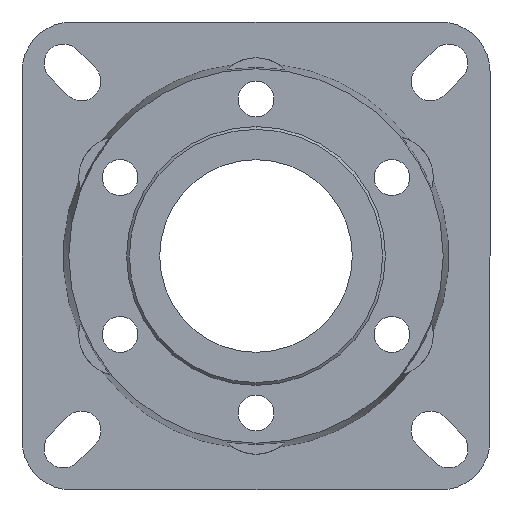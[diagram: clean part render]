
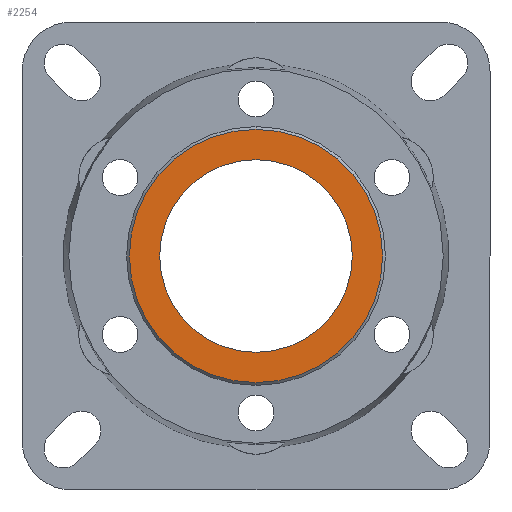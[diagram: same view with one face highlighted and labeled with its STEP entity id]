
A CAD part, left-side view. The second image highlights one B-rep face of the part: STEP entity #2254.
In plain terms, the highlighted planar face has unit normal (-1, 0, 0).
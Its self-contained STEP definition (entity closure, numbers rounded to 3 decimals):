
#155 = PLANE ( 'NONE',  #1157 ) ;
#231 = ORIENTED_EDGE ( 'NONE', *, *, #2711, .T. ) ;
#248 = CARTESIAN_POINT ( 'NONE',  ( -6., 0., 23. ) ) ;
#280 = VERTEX_POINT ( 'NONE', #746 ) ;
#358 = DIRECTION ( 'NONE',  ( 0., 0., -1. ) ) ;
#360 = DIRECTION ( 'NONE',  ( 0., 0., -1. ) ) ;
#622 = FACE_BOUND ( 'NONE', #846, .T. ) ;
#627 = ORIENTED_EDGE ( 'NONE', *, *, #2117, .T. ) ;
#647 = EDGE_LOOP ( 'NONE', ( #2687, #627 ) ) ;
#684 = CIRCLE ( 'NONE', #1324, 17.5 ) ;
#693 = DIRECTION ( 'NONE',  ( 1., 0., 0. ) ) ;
#709 = CIRCLE ( 'NONE', #1598, 17.5 ) ;
#746 = CARTESIAN_POINT ( 'NONE',  ( -6., 0., -23. ) ) ;
#784 = VERTEX_POINT ( 'NONE', #248 ) ;
#786 = CARTESIAN_POINT ( 'NONE',  ( -6., 0., 0. ) ) ;
#816 = CARTESIAN_POINT ( 'NONE',  ( -6., 0., -17.5 ) ) ;
#846 = EDGE_LOOP ( 'NONE', ( #231, #924 ) ) ;
#869 = VERTEX_POINT ( 'NONE', #816 ) ;
#923 = CIRCLE ( 'NONE', #1480, 23. ) ;
#924 = ORIENTED_EDGE ( 'NONE', *, *, #2400, .T. ) ;
#1040 = AXIS2_PLACEMENT_3D ( 'NONE', #2872, #1827, #2418 ) ;
#1157 = AXIS2_PLACEMENT_3D ( 'NONE', #1595, #2427, #358 ) ;
#1167 = FACE_OUTER_BOUND ( 'NONE', #647, .T. ) ;
#1324 = AXIS2_PLACEMENT_3D ( 'NONE', #2776, #693, #360 ) ;
#1480 = AXIS2_PLACEMENT_3D ( 'NONE', #1686, #2048, #3078 ) ;
#1595 = CARTESIAN_POINT ( 'NONE',  ( -6., 0., 0. ) ) ;
#1598 = AXIS2_PLACEMENT_3D ( 'NONE', #786, #2810, #2793 ) ;
#1686 = CARTESIAN_POINT ( 'NONE',  ( -6., 0., 0. ) ) ;
#1827 = DIRECTION ( 'NONE',  ( -1., 0., 0. ) ) ;
#2027 = VERTEX_POINT ( 'NONE', #2057 ) ;
#2048 = DIRECTION ( 'NONE',  ( -1., 0., 0. ) ) ;
#2057 = CARTESIAN_POINT ( 'NONE',  ( -6., 0., 17.5 ) ) ;
#2117 = EDGE_CURVE ( 'NONE', #784, #280, #3139, .T. ) ;
#2254 = ADVANCED_FACE ( 'NONE', ( #1167, #622 ), #155, .F. ) ;
#2400 = EDGE_CURVE ( 'NONE', #2027, #869, #684, .T. ) ;
#2418 = DIRECTION ( 'NONE',  ( 0., 0., -1. ) ) ;
#2427 = DIRECTION ( 'NONE',  ( 1., 0., 0. ) ) ;
#2583 = EDGE_CURVE ( 'NONE', #280, #784, #923, .T. ) ;
#2687 = ORIENTED_EDGE ( 'NONE', *, *, #2583, .T. ) ;
#2711 = EDGE_CURVE ( 'NONE', #869, #2027, #709, .T. ) ;
#2776 = CARTESIAN_POINT ( 'NONE',  ( -6., 0., 0. ) ) ;
#2793 = DIRECTION ( 'NONE',  ( 0., 0., -1. ) ) ;
#2810 = DIRECTION ( 'NONE',  ( 1., 0., 0. ) ) ;
#2872 = CARTESIAN_POINT ( 'NONE',  ( -6., 0., 0. ) ) ;
#3078 = DIRECTION ( 'NONE',  ( 0., 0., -1. ) ) ;
#3139 = CIRCLE ( 'NONE', #1040, 23. ) ;
